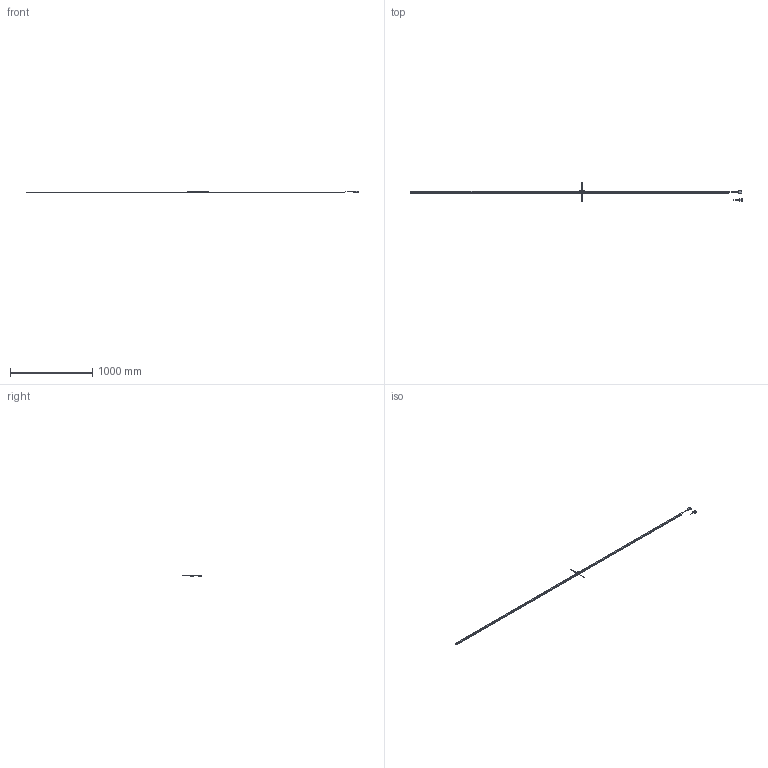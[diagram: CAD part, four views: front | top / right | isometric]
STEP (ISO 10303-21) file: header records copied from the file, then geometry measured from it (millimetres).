
FILE_DESCRIPTION(('Creo Elements/Direct Modeling STEP Export'),'2;1');
FILE_NAME('ABS_ST700-3800A.stp','2018-02-14T13:19:12',(''),(''),'Creo Elements/Direct Modeling STEP processor for AP214 (Solid Model)','Creo Elements/Direct Modeling 18.1B 29-Sep-2012 (C) Parametric Technology GmbH','');
FILE_SCHEMA(('AUTOMOTIVE_DESIGN { 1 0 10303 214 1 1 1 1 }'));
Length unit declared in the file: millimetre
Products named in the file (10): Connector（Dsub15pin）; Connector（Dsub9pin）; Connector; Detector_Head_D; Detector_Head_L; Detector_Head_R; Detector_Head_U; Detector_Head; Scale_3800; ABS_ST700L-3800A
Assembly tree (9 placements, depth 3):
  ABS_ST700L-3800A
    Scale_3800
    Detector_Head
      Detector_Head_U
      Detector_Head_R
      Detector_Head_L
      Detector_Head_D
    Connector
      Connector（Dsub9pin）
      Connector（Dsub15pin）
Bounding box: 4044.5 x 227.7 x 23.3 mm (x, y, z)
Volume: 794752.5 mm3; surface area: 293358.9 mm2
Topology: 8 solids, 8 shells, 6889 faces, 18864 edges, 12414 vertices
Faces by surface type: plane 5357, cylinder 1223, cone 183, torus 58, extrusion 36, bspline 24, revolution 8
Entity records: 220482 total; most frequent: CARTESIAN_POINT 45362, ORIENTED_EDGE 37648, DIRECTION 33967, EDGE_CURVE 18824, VECTOR 15857, LINE 15841, VERTEX_POINT 12412, AXIS2_PLACEMENT_3D 9049
